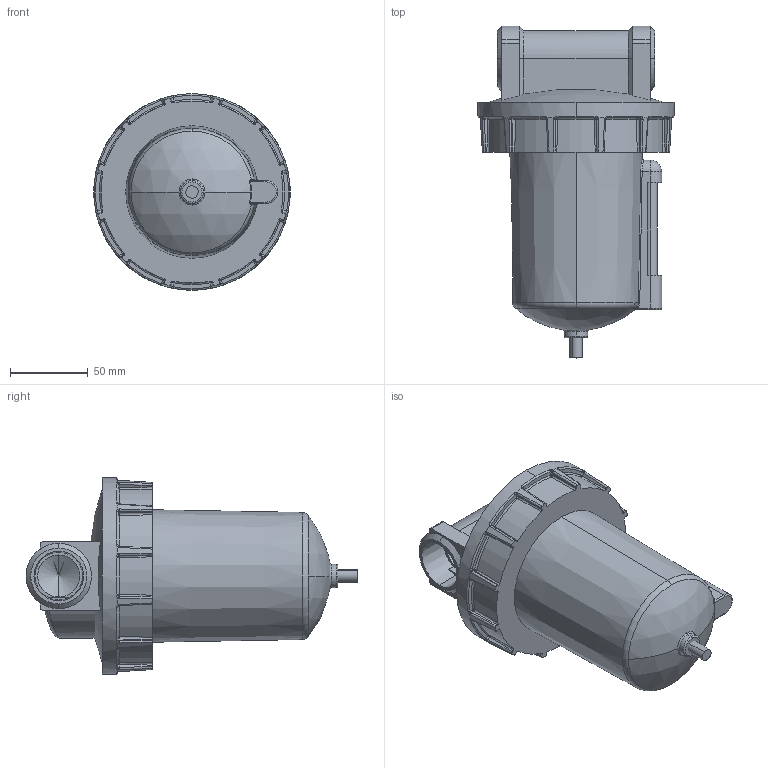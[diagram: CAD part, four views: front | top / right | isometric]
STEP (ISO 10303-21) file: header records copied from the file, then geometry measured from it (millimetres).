
FILE_DESCRIPTION (( 'STEP AP203' ), '1' );
FILE_NAME ('F602W-08#YB#.STEP', '2016-02-16T05:17:57', ( 'Toshiba' ), ( 'Toshiba' ), 'SwSTEP 2.0', 'SolidWorks 2014', '' );
FILE_SCHEMA (( 'CONFIG_CONTROL_DESIGN' ));
Length unit declared in the file: millimetre
Products named in the file (4): L606-W-06-5; F602W-08; F602W-08#YB#; L606-W-06-2
Assembly tree (3 placements, depth 2):
  F602W-08#YB#
    F602W-08
    L606-W-06-2
    L606-W-06-5
Bounding box: 126 x 213 x 126 mm (x, y, z)
Volume: 1127642 mm3; surface area: 98174.8 mm2
Topology: 4 solids, 4 shells, 345 faces, 867 edges, 506 vertices
Faces by surface type: bspline 107, plane 77, cylinder 67, torus 35, cone 30, sphere 29
Entity records: 13716 total; most frequent: CARTESIAN_POINT 6102, ORIENTED_EDGE 1674, DIRECTION 1354, EDGE_CURVE 837, AXIS2_PLACEMENT_3D 591, VERTEX_POINT 505, EDGE_LOOP 350, CIRCLE 347
